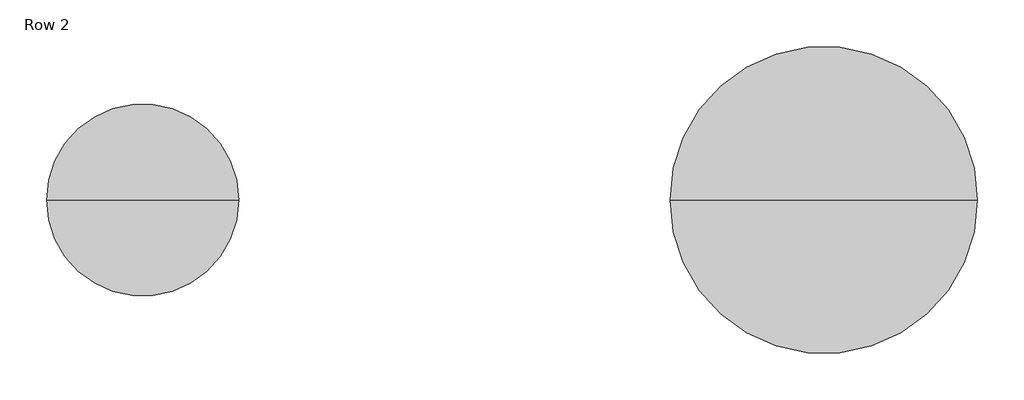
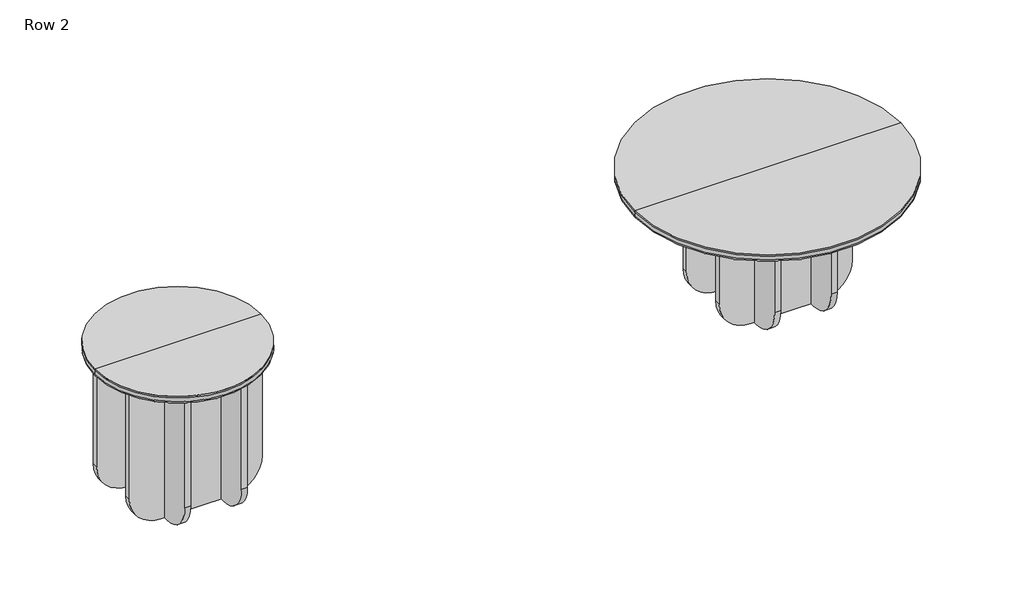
# One storey: 2 furniture elements.
"""IFC4 building model written with IfcOpenShell, lengths in millimetres."""

from ifc_helpers import new_model, si_unit, origin, place, context, project, spatial, transform, mapped, element, save
from components import furniture_7f435b12, furniture_2c49c6e3

model = new_model("IFC4")

# Units and contexts
model_context = context("Model", 3, world=origin())
ifc_project = project(units=[si_unit("LENGTHUNIT", "METRE", prefix="MILLI")], contexts=[model_context])

# Site, building, storey
site = spatial("IfcSite", under=ifc_project)
building = spatial("IfcBuilding", under=site)
storey = spatial("IfcBuildingStorey", under=building, Name="Row 2", Elevation=0.0)

# Furniture
placement = place(None, origin())
furniture_shape = furniture_7f435b12(model_context)
element("IfcFurniture", 1, ObjectType="Lundbergs Möbler - Funghi Piccolo - Lounge Table - Round - Ø50 - H47 : Lundbergs Möbler - Funghi Piccolo - Lounge Table - Round - Ø50 - H47", at=placement, inside=storey, context=model_context, shape_type="MappedRepresentation", body=[
    mapped(furniture_shape, transform((-11328.8878123, 713.4424658, 0.0), x_axis=(0.0, -1.0, 0.0), y_axis=(1.0, 0.0, 0.0), z_axis=(0.0, 0.0, 1.0))),
])
furniture_2_shape = furniture_2c49c6e3(model_context)
element("IfcFurniture", 2, ObjectType="Lundbergs Möbler - Funghi Piccolo - Lounge Table - Round - Ø80 - H40 : Lundbergs Möbler - Funghi Piccolo - Lounge Table - Round - Ø80 - H40", at=placement, inside=storey, context=model_context, shape_type="MappedRepresentation", body=[
    mapped(furniture_2_shape, transform((-9555.554479, 713.4424658, 0.0), x_axis=(0.0, -1.0, 0.0), y_axis=(1.0, 0.0, 0.0), z_axis=(0.0, 0.0, 1.0))),
])

save(model, "model.ifc")
